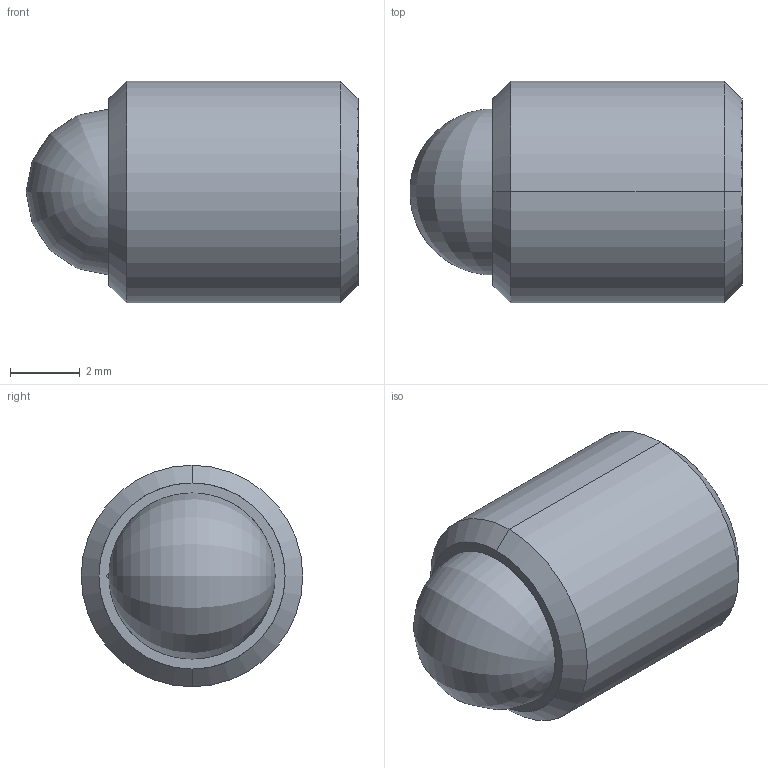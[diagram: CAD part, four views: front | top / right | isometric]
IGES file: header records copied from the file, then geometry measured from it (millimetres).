
Start section: SolidWorks IGES file using analytic representation for surfaces
Global section: file name: C:\Users\workpc\Desktop\KMA Solidworks\TS250-80 Series\TS250-80 High Vacuum\TS250-80 High Vacuum 3D Models\TS250-80-375-AA-HV.IGS; native system: SolidWorks 2013; preprocessor: SolidWorks 2013; author: workpc; date: 130510.103706; units: inch
Bounding box: 9.52 x 6.35 x 6.35 mm (x, y, z)
Surface area: 316.1 mm2 (no closed solid volume)
Topology: 0 solids, 0 shells, 24 faces, 240 edges, 236 vertices
Faces by surface type: revolution 14, bspline 10
